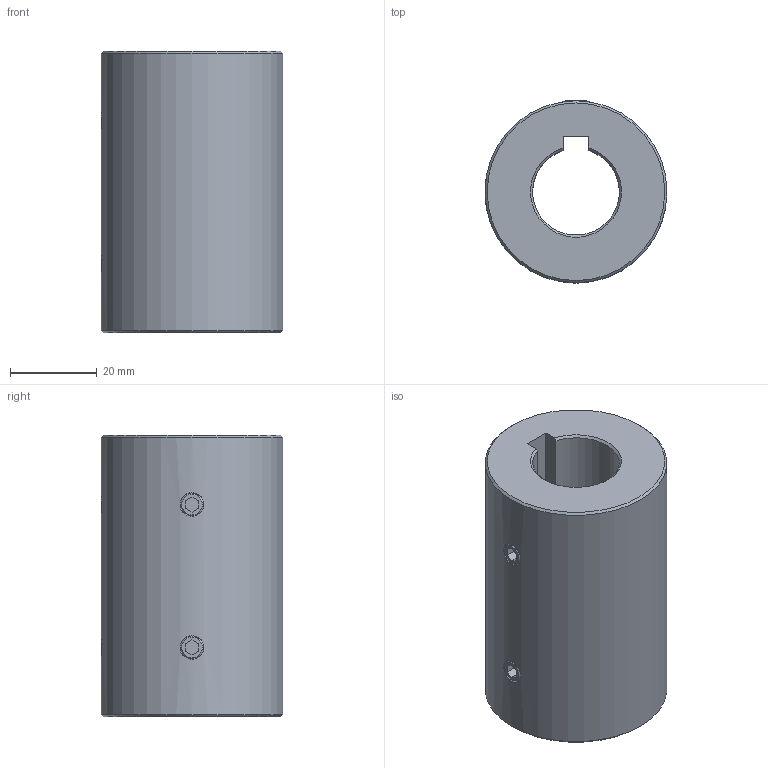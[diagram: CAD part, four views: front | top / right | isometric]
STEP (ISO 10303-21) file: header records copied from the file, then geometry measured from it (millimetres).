
FILE_DESCRIPTION (( 'STEP AP214' ), '1' );
FILE_NAME ('KBST1-VA-N20.STEP', '2025-07-29T07:26:49', ( '' ), ( '' ), 'SwSTEP 2.0', 'SolidWorks 2024', '' );
FILE_SCHEMA (( 'AUTOMOTIVE_DESIGN' ));
Length unit declared in the file: millimetre
Products named in the file (1): KBST1-VA-N20
Bounding box: 42 x 42 x 65 mm (x, y, z)
Volume: 67968.6 mm3; surface area: 16377 mm2
Topology: 5 solids, 5 shells, 83 faces, 191 edges, 114 vertices
Faces by surface type: plane 37, cone 28, cylinder 14, bspline 4
Full cylindrical faces by diameter (mm): 5 x4, 42 x1
Entity records: 7660 total; most frequent: CARTESIAN_POINT 4900, DIRECTION 358, ORIENTED_EDGE 340, EDGE_CURVE 170, AXIS2_PLACEMENT_3D 122, VECTOR 114, LINE 114, VERTEX_POINT 112
